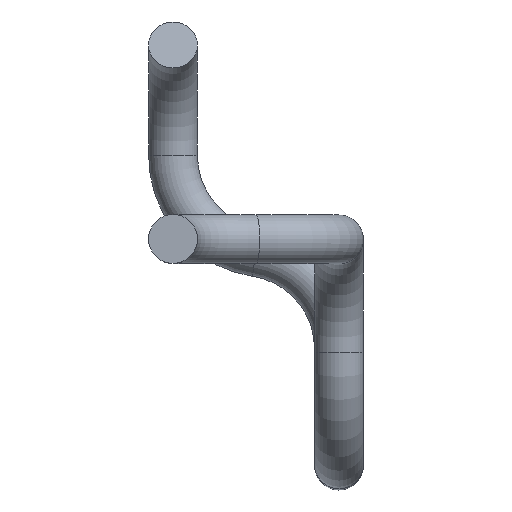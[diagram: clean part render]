
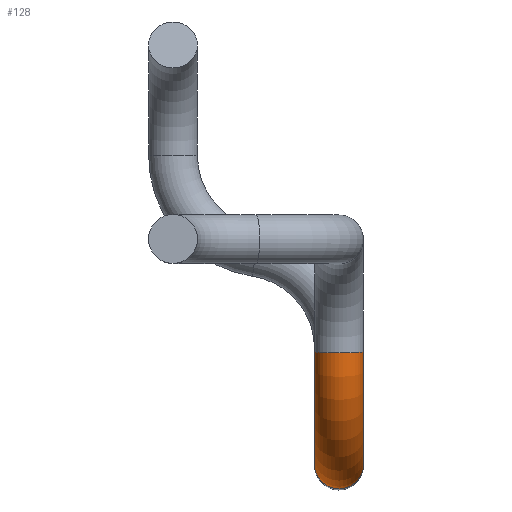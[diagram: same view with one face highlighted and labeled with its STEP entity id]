
A CAD part, top view. The second image highlights one B-rep face of the part: STEP entity #128.
In plain terms, the highlighted toroidal (fillet/blend) face has major radius 12 mm and minor radius 2.5 mm.
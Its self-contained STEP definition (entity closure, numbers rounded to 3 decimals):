
#107 = VERTEX_POINT('',#108);
#108 = CARTESIAN_POINT('',(19.5,-11.5,128.237));
#115 = EDGE_CURVE('',#107,#107,#116,.T.);
#116 = CIRCLE('',#117,2.5);
#117 = AXIS2_PLACEMENT_3D('',#118,#119,#120);
#118 = CARTESIAN_POINT('',(17.,-11.5,128.237));
#119 = DIRECTION('',(0.,0.999,0.042));
#120 = DIRECTION('',(0.,0.042,-0.999));
#128 = ADVANCED_FACE('',(#129),#149,.T.);
#129 = FACE_BOUND('',#130,.T.);
#130 = EDGE_LOOP('',(#131,#140,#147,#148));
#131 = ORIENTED_EDGE('',*,*,#132,.T.);
#132 = EDGE_CURVE('',#107,#133,#135,.T.);
#133 = VERTEX_POINT('',#134);
#134 = CARTESIAN_POINT('',(19.5,-23.,116.247));
#135 = CIRCLE('',#136,12.);
#136 = AXIS2_PLACEMENT_3D('',#137,#138,#139);
#137 = CARTESIAN_POINT('',(19.5,-11.,116.247));
#138 = DIRECTION('',(1.,0.,0.));
#139 = DIRECTION('',(0.,-0.042,0.999));
#140 = ORIENTED_EDGE('',*,*,#141,.T.);
#141 = EDGE_CURVE('',#133,#133,#142,.T.);
#142 = CIRCLE('',#143,2.5);
#143 = AXIS2_PLACEMENT_3D('',#144,#145,#146);
#144 = CARTESIAN_POINT('',(17.,-23.,116.247));
#145 = DIRECTION('',(-0.,0.,1.));
#146 = DIRECTION('',(0.,-1.,0.));
#147 = ORIENTED_EDGE('',*,*,#132,.F.);
#148 = ORIENTED_EDGE('',*,*,#115,.F.);
#149 = TOROIDAL_SURFACE('',#150,12.,2.5);
#150 = AXIS2_PLACEMENT_3D('',#151,#152,#153);
#151 = CARTESIAN_POINT('',(17.,-11.,116.247));
#152 = DIRECTION('',(1.,0.,0.));
#153 = DIRECTION('',(0.,-0.042,0.999));
